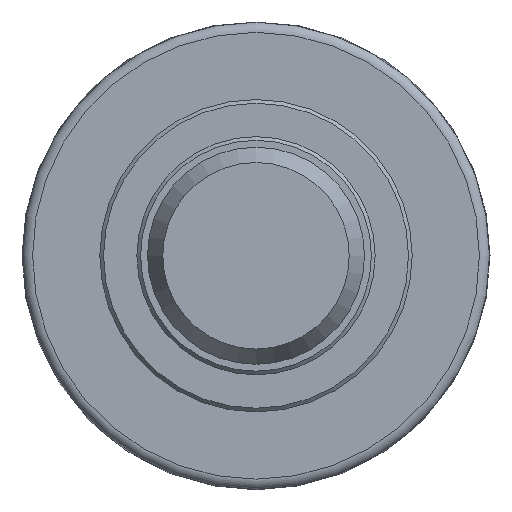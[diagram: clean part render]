
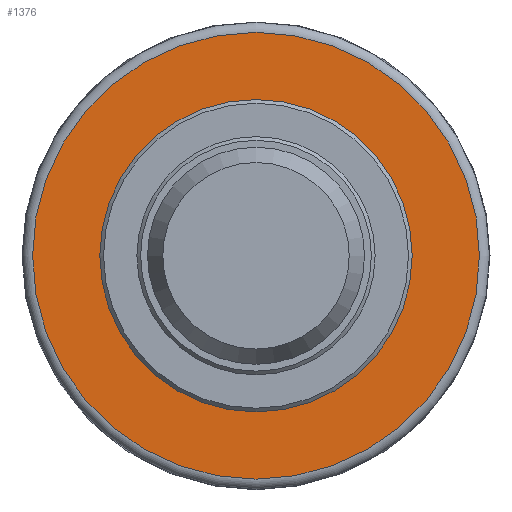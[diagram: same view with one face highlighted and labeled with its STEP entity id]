
A CAD part, left-side view. The second image highlights one B-rep face of the part: STEP entity #1376.
In plain terms, the highlighted planar face has unit normal (-1, 0, 0).
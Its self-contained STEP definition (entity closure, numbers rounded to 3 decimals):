
#1342=CARTESIAN_POINT('',(-22.5,42.2,0.0));
#1343=VERTEX_POINT('',#1342);
#1344=CARTESIAN_POINT('',(-22.5,0.0,0.0));
#1345=DIRECTION('',(1.0,0.0,0.0));
#1346=DIRECTION('',(0.0,-1.0,0.0));
#1347=AXIS2_PLACEMENT_3D('',#1344,#1345,#1346);
#1348=CIRCLE('',#1347,42.2);
#1349=EDGE_CURVE('',#1343,#1343,#1348,.T.);
#1357=CARTESIAN_POINT('',(-22.5,36.35,0.0));
#1358=DIRECTION('',(-1.0,0.0,0.0));
#1359=DIRECTION('',(0.0,0.0,1.0));
#1360=AXIS2_PLACEMENT_3D('',#1357,#1358,#1359);
#1361=PLANE('',#1360);
#1362=ORIENTED_EDGE('',*,*,#1349,.F.);
#1363=EDGE_LOOP('',(#1362));
#1364=FACE_OUTER_BOUND('',#1363,.T.);
#1365=CARTESIAN_POINT('',(-22.5,28.5,0.0));
#1366=VERTEX_POINT('',#1365);
#1367=CARTESIAN_POINT('',(-22.5,0.0,0.0));
#1368=DIRECTION('',(1.0,0.0,0.0));
#1369=DIRECTION('',(0.0,1.0,0.0));
#1370=AXIS2_PLACEMENT_3D('',#1367,#1368,#1369);
#1371=CIRCLE('',#1370,28.5);
#1372=EDGE_CURVE('',#1366,#1366,#1371,.T.);
#1373=ORIENTED_EDGE('',*,*,#1372,.T.);
#1374=EDGE_LOOP('',(#1373));
#1375=FACE_BOUND('',#1374,.T.);
#1376=ADVANCED_FACE('',(#1364,#1375),#1361,.T.);
